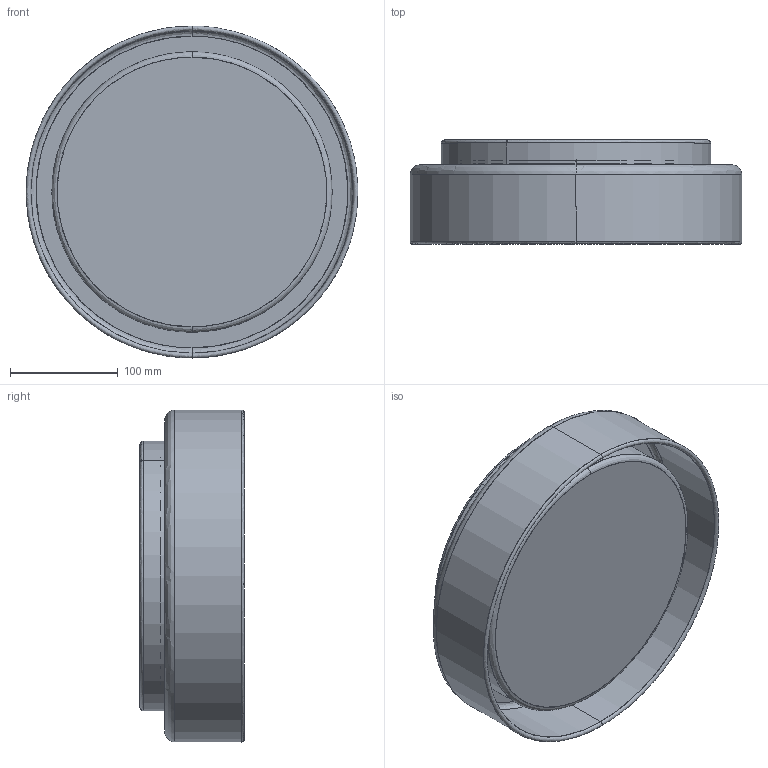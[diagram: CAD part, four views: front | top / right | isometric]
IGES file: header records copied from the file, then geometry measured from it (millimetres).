
Start section: SolidWorks IGES file using analytic representation for surfaces
Global section: file name: Z:\Modele 3D_WWW\_KOLEKCJE_WWW\PAN-LED\PAN-LED-S-8173\PAN-LED-S-8173.IGS; native system: SolidWorks 2020; preprocessor: SolidWorks 2020; author: gabriela.tworek; date: 210401.202146; units: millimetre
Bounding box: 307.8 x 96.6 x 307.8 mm (x, y, z)
Surface area: 710457.1 mm2 (no closed solid volume)
Topology: 0 solids, 0 shells, 77 faces, 1848 edges, 1848 vertices
Faces by surface type: bspline 39, revolution 38
